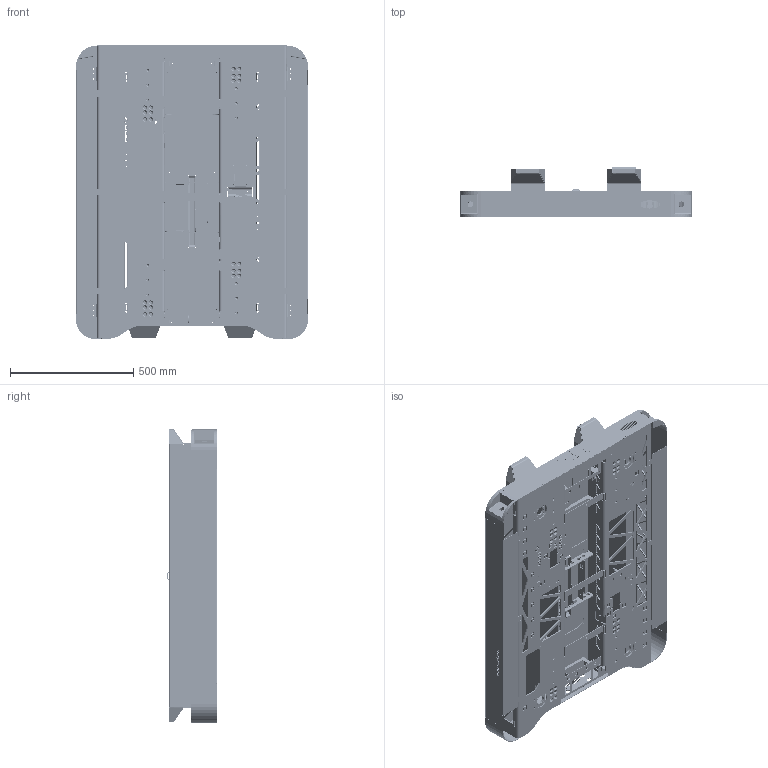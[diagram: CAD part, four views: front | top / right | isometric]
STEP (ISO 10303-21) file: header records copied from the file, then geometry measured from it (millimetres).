
FILE_DESCRIPTION (( 'STEP AP203' ), '1' );
FILE_NAME ('MD650 SIMPLIFIED STEP.STEP', '2024-06-03T10:33:28', ( '' ), ( '' ), 'SwSTEP 2.0', 'SolidWorks 2023', '' );
FILE_SCHEMA (( 'CONFIG_CONTROL_DESIGN' ));
Length unit declared in the file: millimetre
Products named in the file (45): NM00088082_NM00088082; NM00108827_NM00108827; NM00117858; nm00088096_NM00088096; NM00107051; NM00088134; nm00088092; NM00112520; NM00127015; nm00088086; NM00120304; NM00088094_NM00088094; NM00117856; MD650 SIMPLIFIED STEP; NM00119371; NM00112300; NM00088093_NM00088093; NM00088084_NM00088084; NM00108808; NM00112177; NM00120895; ISO 10642 - M8 x 20 - 20N_ISO 10642 - M8 x 20 - 20N; NM00107062; NM00103269_NM00103269; NM00111866; NM00108850; NM00119407; NM00088588_NM00088588; NM00101595; nm00088090; NM00101593; NM00115331; NM00005196_NM00005196; NM00112563; NM00108810; NM00119388; NM00107057; NM00108820; nm00088088; NM00088095_NM00088095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
Assembly tree (70 placements, depth 5):
  MD650 SIMPLIFIED STEP
    NM00088134
      NM00088082_NM00088082
        NM00088093_NM00088093
        NM00088084_NM00088084  x2
        NM00088095_NM00088095
        nm00088097_NM00088097  x4
        NM00088094_NM00088094
        nm00088086  x2
        NM00088089_NM00088089
        nm00088096_NM00088096
        nm00088088
        nm00088092
        nm00088090
        NM00088588_NM00088588
        NM00103269_NM00103269
        NM00107047
        NM00108810
        NM00108827_NM00108827
        NM00115331  x3
        NM00005196_NM00005196  x2
        NM00117858
    ISO 10642 - M8 x 20 - 20N_ISO 10642 - M8 x 20 - 20N  x16
    NM00120895
      NM00101595
        NM00119388
          NM00101593
          NM00119371  x2
        NM00112563
      NM00120304
        NM00119407
          NM00119216_Default<As Machined>
          NM00119371  x2
    NM00107057
      NM00117856
        NM00107051
        NM00108808
        NM00108820
        NM00107062
        NM00112520
        NM00127015
      NM00107049
    NM00112300
    NM00111866
    NM00112177
    NM00108850
Bounding box: 940 x 203.5 x 1192.5 mm (x, y, z)
Volume: 10298022.5 mm3; surface area: 7763144.7 mm2
Topology: 62 solids, 62 shells, 8852 faces, 24918 edges, 16153 vertices
Faces by surface type: plane 4650, cylinder 3683, cone 349, torus 92, bspline 78
Entity records: 272311 total; most frequent: CARTESIAN_POINT 52234, DIRECTION 45399, ORIENTED_EDGE 45074, EDGE_CURVE 22537, AXIS2_PLACEMENT_3D 15144, LINE 15111, VECTOR 15111, VERTEX_POINT 14698
